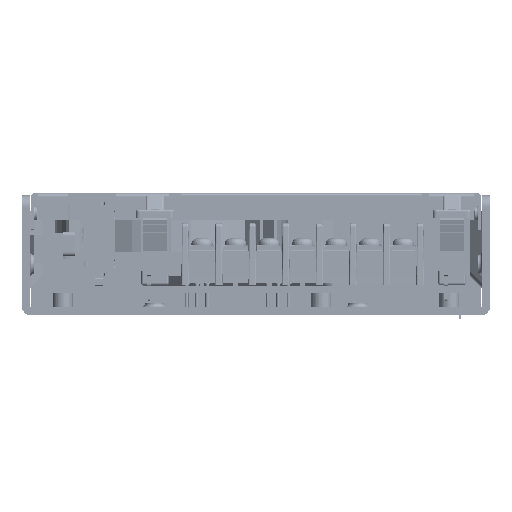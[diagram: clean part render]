
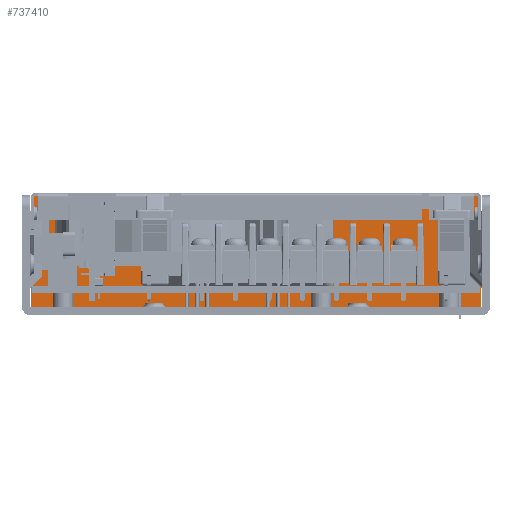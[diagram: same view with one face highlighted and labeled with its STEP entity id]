
A CAD part, left-side view. The second image highlights one B-rep face of the part: STEP entity #737410.
In plain terms, the highlighted planar face has unit normal (-1, 0, 0).
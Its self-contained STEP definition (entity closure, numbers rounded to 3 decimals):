
#734400=CARTESIAN_POINT('',(261.078,285.192,31.));
#734410=VERTEX_POINT('',#734400);
#734440=CARTESIAN_POINT('',(261.078,285.192,1.5));
#734450=DIRECTION('',(0.,0.,-1.));
#734460=VECTOR('',#734450,1.);
#734470=LINE('',#734440,#734460);
#734480=CARTESIAN_POINT('',(261.078,285.192,
3.6));
#734490=VERTEX_POINT('',#734480);
#734500=EDGE_CURVE('',#734410,#734490,#734470,.T.);
#735170=CARTESIAN_POINT('',(261.078,174.392,
3.6));
#735180=VERTEX_POINT('',#735170);
#735210=CARTESIAN_POINT('',(261.078,174.392,1.5));
#735220=DIRECTION('',(0.,0.,1.));
#735230=VECTOR('',#735220,1.);
#735240=LINE('',#735210,#735230);
#735250=CARTESIAN_POINT('',(261.078,174.392,31.));
#735260=VERTEX_POINT('',#735250);
#735270=EDGE_CURVE('',#735180,#735260,#735240,.T.);
#735540=CARTESIAN_POINT('',(261.078,-140.208,
3.6));
#735550=DIRECTION('',(0.,1.,0.));
#735560=VECTOR('',#735550,1.);
#735570=LINE('',#735540,#735560);
#735580=EDGE_CURVE('',#735180,#734490,#735570,.T.);
#735690=CARTESIAN_POINT('',(261.078,-140.208,31.));
#735700=DIRECTION('',(0.,-1.,0.));
#735710=VECTOR('',#735700,1.);
#735720=LINE('',#735690,#735710);
#735730=EDGE_CURVE('',#734410,#735260,#735720,.T.);
#736660=CARTESIAN_POINT('',(261.078,268.067,
44.));
#736670=DIRECTION('',(1.,0.,-0.));
#736680=DIRECTION('',(0.,1.,0.));
#736690=AXIS2_PLACEMENT_3D('',#736660,#736670,#736680);
#736700=PLANE('',#736690);
#736710=CARTESIAN_POINT('',(261.078,-140.908,
26.998));
#736720=DIRECTION('',(0.,-1.,0.));
#736730=VECTOR('',#736720,1.);
#736740=LINE('',#736710,#736730);
#736750=CARTESIAN_POINT('',(261.078,212.828,
26.998));
#736760=VERTEX_POINT('',#736750);
#736770=CARTESIAN_POINT('',(261.078,210.828,
26.998));
#736780=VERTEX_POINT('',#736770);
#736790=EDGE_CURVE('',#736760,#736780,#736740,.T.);
#736800=ORIENTED_EDGE('',*,*,#736790,.T.);
#736810=CARTESIAN_POINT('',(261.078,-140.908,
26.998));
#736820=DIRECTION('',(0.,-1.,0.));
#736830=VECTOR('',#736820,1.);
#736840=LINE('',#736810,#736830);
#736850=CARTESIAN_POINT('',(261.078,255.828,
26.998));
#736860=VERTEX_POINT('',#736850);
#736870=EDGE_CURVE('',#736860,#736760,#736840,.T.);
#736880=ORIENTED_EDGE('',*,*,#736870,.T.);
#736890=CARTESIAN_POINT('',(261.078,257.828,
26.998));
#736900=VERTEX_POINT('',#736890);
#736910=EDGE_CURVE('',#736900,#736860,#736740,.T.);
#736920=ORIENTED_EDGE('',*,*,#736910,.T.);
#736930=CARTESIAN_POINT('',(261.078,257.828,1.5));
#736940=DIRECTION('',(0.,0.,-1.));
#736950=VECTOR('',#736940,1.);
#736960=LINE('',#736930,#736950);
#736970=CARTESIAN_POINT('',(261.078,257.828,
9.612));
#736980=VERTEX_POINT('',#736970);
#736990=EDGE_CURVE('',#736900,#736980,#736960,.T.);
#737000=ORIENTED_EDGE('',*,*,#736990,.F.);
#737010=CARTESIAN_POINT('',(261.078,254.999,
11.026));
#737020=DIRECTION('',(1.,0.,0.));
#737030=DIRECTION('',(0.,-0.707,
0.707));
#737040=AXIS2_PLACEMENT_3D('',#737010,#737020,#737030);
#737050=ELLIPSE('',#737040,3.464,2.);
#737060=CARTESIAN_POINT('',(261.078,256.413,
8.198));
#737070=VERTEX_POINT('',#737060);
#737080=EDGE_CURVE('',#737070,#736980,#737050,.T.);
#737090=ORIENTED_EDGE('',*,*,#737080,.T.);
#737100=CARTESIAN_POINT('',(261.078,-140.908,
8.198));
#737110=DIRECTION('',(0.,-1.,0.));
#737120=VECTOR('',#737110,1.);
#737130=LINE('',#737100,#737120);
#737140=CARTESIAN_POINT('',(261.078,212.242,
8.198));
#737150=VERTEX_POINT('',#737140);
#737160=EDGE_CURVE('',#737070,#737150,#737130,.T.);
#737170=ORIENTED_EDGE('',*,*,#737160,.F.);
#737180=CARTESIAN_POINT('',(261.078,213.656,
11.026));
#737190=DIRECTION('',(1.,0.,0.));
#737200=DIRECTION('',(0.,0.707,
0.707));
#737210=AXIS2_PLACEMENT_3D('',#737180,#737190,#737200);
#737220=ELLIPSE('',#737210,3.464,2.);
#737230=CARTESIAN_POINT('',(261.078,210.828,
9.612));
#737240=VERTEX_POINT('',#737230);
#737250=EDGE_CURVE('',#737240,#737150,#737220,.T.);
#737260=ORIENTED_EDGE('',*,*,#737250,.T.);
#737270=CARTESIAN_POINT('',(261.078,210.828,1.5));
#737280=DIRECTION('',(0.,0.,1.));
#737290=VECTOR('',#737280,1.);
#737300=LINE('',#737270,#737290);
#737310=EDGE_CURVE('',#737240,#736780,#737300,.T.);
#737320=ORIENTED_EDGE('',*,*,#737310,.F.);
#737330=EDGE_LOOP('',(#737320,#737260,#737170,#737090,#737000,#736920,
#736880,#736800));
#737340=FACE_BOUND('',#737330,.T.);
#737350=ORIENTED_EDGE('',*,*,#735270,.T.);
#737360=ORIENTED_EDGE('',*,*,#735580,.F.);
#737370=ORIENTED_EDGE('',*,*,#734500,.T.);
#737380=ORIENTED_EDGE('',*,*,#735730,.F.);
#737390=EDGE_LOOP('',(#737380,#737370,#737360,#737350));
#737400=FACE_OUTER_BOUND('',#737390,.T.);
#737410=ADVANCED_FACE('',(#737340,#737400),#736700,.F.);
